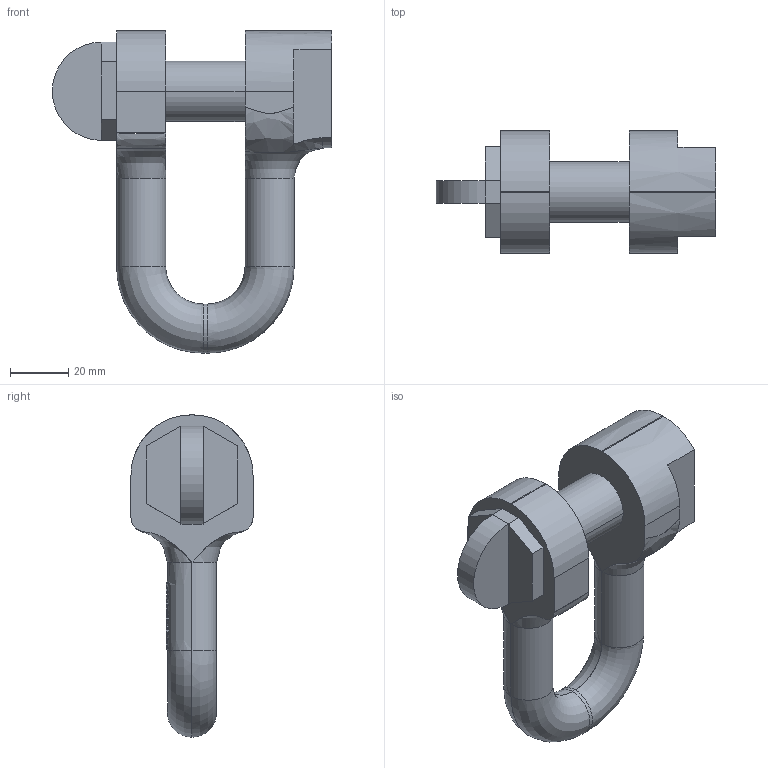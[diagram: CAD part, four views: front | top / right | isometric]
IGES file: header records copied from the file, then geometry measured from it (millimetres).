
Start section:  PTC IGES file: G:\TBM\3D-CAD-neu\3vv_sch13.igs
Global section: file name: G:\TBM\3D-CAD-neu\3vv_sch13.igs; native system: Pro/ENGINEER by Parametric Technology Corporation; preprocessor: 2001400; author: Haas; organization: Unknown; date: 030820.093824; units: millimetre
Bounding box: 96.1 x 42 x 110.9 mm (x, y, z)
Surface area: 22705.1 mm2 (no closed solid volume)
Topology: 0 solids, 0 shells, 303 faces, 1660 edges, 1660 vertices
Faces by surface type: bspline 275, revolution 28
